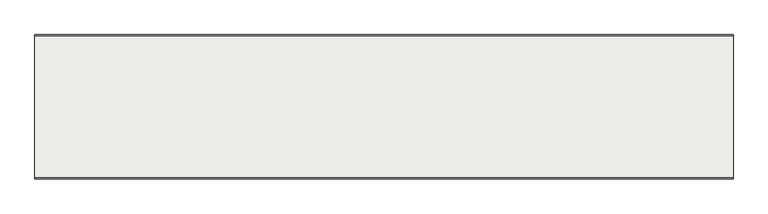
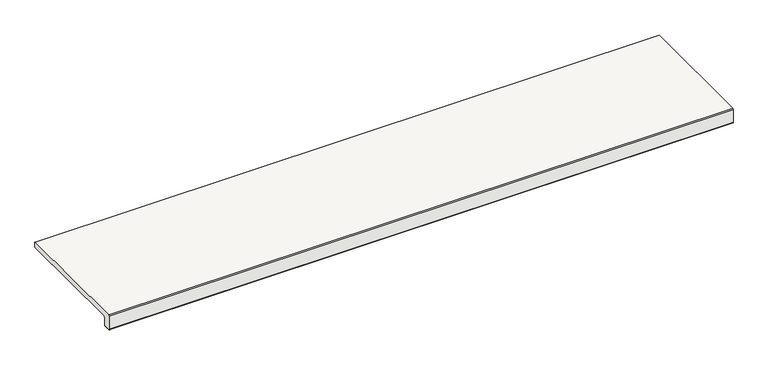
"""IFC4 building model written with IfcOpenShell, lengths in millimetres: slab geometry, ROSA GRES_L98 : Pieza L98_Serena_Ocra_Anti-Slip."""

from ifc_helpers import new_model, si_unit, point, frame, frame_2d, origin, place, context, project, spatial, polyline, circle_curve, trimmed, segment, composite_curve, outline, extrude, source, transform, mapped, element, save


def slab_8f1299f5(model_context):
    return source(origin(), model_context, "Body", "SweptSolid", [
        extrude(outline(composite_curve([segment(polyline([(17.5526771, -23.0), (11.8841218, -23.0)]), True, "CONTINUOUS"), segment(trimmed(circle_curve(frame_2d((10.0167467, -23.0)), 1.8673751), [point((11.8841218, -23.0))], [point((8.1493716, -23.0))], True, "CARTESIAN"), True, "CONTINUOUS"), segment(polyline([(8.1493716, -23.0), (2.5, -23.0)]), True, "CONTINUOUS"), segment(trimmed(circle_curve(frame_2d((2.5, -20.5)), 2.5), [point((2.5, -23.0))], [point((0.0, -20.5))], False, "CARTESIAN"), True, "CONTINUOUS"), segment(polyline([(0.0, -20.5), (0.0, 12.5), (2.5, 15.0), (314.5, 15.0), (317.0, 12.5), (317.0, 2.5)]), True, "CONTINUOUS"), segment(trimmed(circle_curve(frame_2d((314.5, 2.5)), 2.5), [point((317.0, 2.5))], [point((314.5, 0.0))], False, "CARTESIAN"), True, "CONTINUOUS"), segment(polyline([(314.5, 0.0), (22.471267, 0.0)]), True, "CONTINUOUS"), segment(trimmed(circle_curve(frame_2d((22.471267, -2.5191553)), 2.5191553), [point((22.471267, 0.0))], [point((19.9521117, -2.5191553))], True, "CARTESIAN"), True, "CONTINUOUS"), segment(polyline([(19.9521117, -2.5191553), (19.9521117, -20.6005654)]), True, "CONTINUOUS"), segment(trimmed(circle_curve(frame_2d((17.5526771, -20.6005654)), 2.3994346), [point((19.9521117, -20.6005654))], [point((17.5526771, -23.0))], False, "CARTESIAN"), True, "CONTINUOUS")], self_intersect=False)), frame((0.0, 0.0, 0.0), z_axis=(1.0, 0.0, 0.0), x_axis=(0.0, 1.0, 0.0)), (0.0, 0.0, 1.0), 1535.0),
    ])


if __name__ == "__main__":
    model = new_model("IFC4")
    model_context = context("Model", 3, world=origin())
    ifc_project = project(units=[si_unit("LENGTHUNIT", "METRE", prefix="MILLI")], contexts=[model_context])
    site = spatial("IfcSite", under=ifc_project)
    building = spatial("IfcBuilding", under=site)
    placement = place(None, origin())
    slab_shape = slab_8f1299f5(model_context)
    element("IfcSlab", 1, ObjectType="ROSA GRES_L98 : Pieza L98_Serena_Ocra_Anti-Slip", at=placement, inside=building, context=model_context, shape_type="MappedRepresentation", body=[
        mapped(slab_shape, transform((0.0, 0.0, 0.0), x_axis=(1.0, 0.0, 0.0), y_axis=(0.0, 1.0, 0.0), z_axis=(0.0, 0.0, 1.0))),
    ])
    save(model, "model.ifc")
